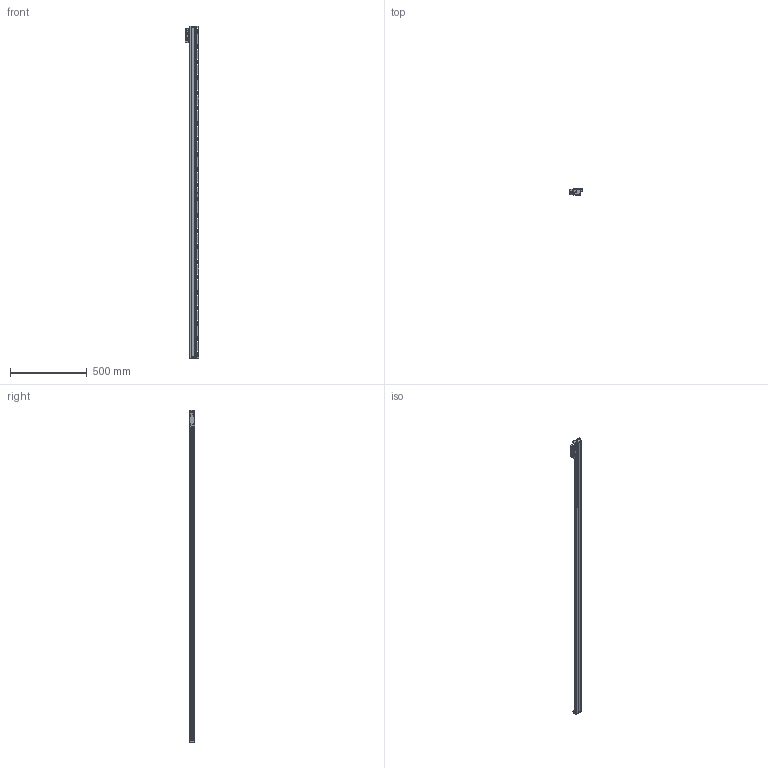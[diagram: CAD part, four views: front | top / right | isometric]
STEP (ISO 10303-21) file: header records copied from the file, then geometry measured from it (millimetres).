
FILE_DESCRIPTION(/* description */ (''),/* implementation_level */ '2;1');
FILE_NAME(/* name */ 'JC21A-2040-1.stp',/* time_stamp */ '2023-12-21T17:02:36+08:00',/* author */ (''),/* organization */ (''),/* preprocessor_version */ 'ST-DEVELOPER v14',/* originating_system */ 'SIEMENS PLM Software NX 8.0',/* authorisation */ '');
FILE_SCHEMA (('CONFIG_CONTROL_DESIGN'));
Length unit declared in the file: millimetre
Products named in the file (1): JC21A-2040-1
Bounding box: 87.5 x 37 x 2161 mm (x, y, z)
Volume: 3378422 mm3; surface area: 550090.7 mm2
Topology: 4 solids, 6 shells, 1217 faces, 3634 edges, 2419 vertices
Faces by surface type: plane 762, cylinder 423, cone 22, bspline 8, extrusion 2
Full cylindrical faces by diameter (mm): 2.5 x12, 3.3 x6, 3.7 x4, 4.2 x4, 5 x2, 6 x6, 6.6 x2, 6.8 x24, 7 x2, 13.2 x2
Entity records: 41793 total; most frequent: CARTESIAN_POINT 8503, ORIENTED_EDGE 7016, DIRECTION 6916, EDGE_CURVE 3508, VERTEX_POINT 2379, AXIS2_PLACEMENT_3D 2317, VECTOR 2282, LINE 2280
